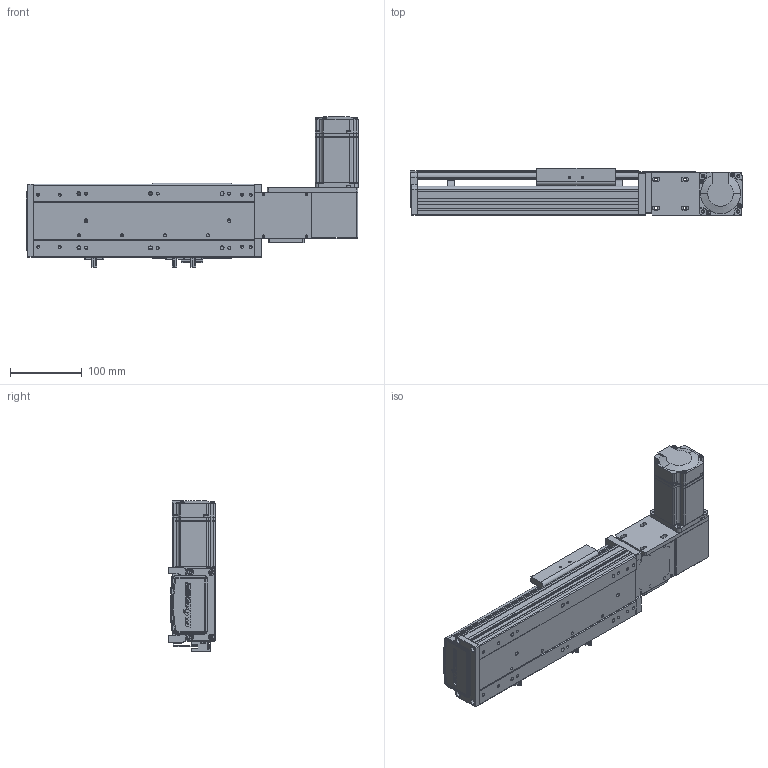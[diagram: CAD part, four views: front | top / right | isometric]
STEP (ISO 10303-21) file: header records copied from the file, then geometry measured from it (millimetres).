
FILE_DESCRIPTION (( 'STEP AP203' ), '1' );
FILE_NAME ('RY100-T-300-RK.SLDASM_100.step', '2024-04-25T08:21:21', ( '盈信电脑' ), ( '东莞市道滘镇水果街19号' ), 'SwSTEP 2.0', 'SolidWorks 2016', '' );
FILE_SCHEMA (( 'CONFIG_CONTROL_DESIGN' ));
Length unit declared in the file: millimetre
Products named in the file (15): 滅袉蝶18-10; RY100-T-300-RK倰第奻裔_100; RY100俋离覜茼え; RY100-T粣創揤踡裔; RY80-T肮祭謫俋欶; RY100-T左右折电机安装板; RY100綴裔啣; RY100-T肮祭謫翋盓傅釱; 1; RY100-T-300-RK倰第菁釱_100; RY100-T肮祭謫臏賑輸; RY100-T翋肮祭謫裔啣2; 侂狟200W萇儂; RY100-T-300-RK.SLDASM_100; 覜茼ん672
Assembly tree (18 placements, depth 3):
  RY100-T-300-RK.SLDASM_100
    RY100-T-300-RK倰第菁釱_100
    RY100-T-300-RK倰第奻裔_100
    RY100-T肮祭謫臏賑輸
    RY100綴裔啣
    覜茼ん672  x3
    RY100俋离覜茼え
    RY100-T肮祭謫翋盓傅釱
    RY100-T左右折电机安装板
    侂狟200W萇儂
      1
    RY100-T粣創揤踡裔
    滅袉蝶18-10  x2
    RY100-T翋肮祭謫裔啣2  x2
    RY80-T肮祭謫俋欶
Bounding box: 464 x 66 x 209.7 mm (x, y, z)
Volume: 1190671.1 mm3; surface area: 438673.4 mm2
Topology: 17 solids, 17 shells, 2065 faces, 5701 edges, 3701 vertices
Faces by surface type: plane 1173, cylinder 691, cone 123, bspline 78
Entity records: 64883 total; most frequent: CARTESIAN_POINT 15391, ORIENTED_EDGE 10138, DIRECTION 9657, EDGE_CURVE 5069, LINE 3389, VECTOR 3389, VERTEX_POINT 3337, AXIS2_PLACEMENT_3D 3134
